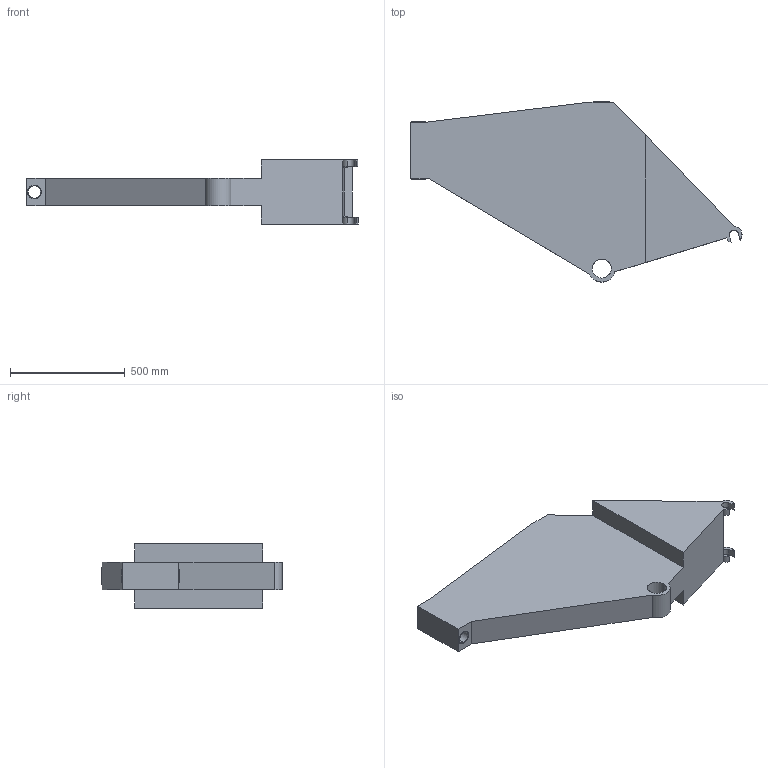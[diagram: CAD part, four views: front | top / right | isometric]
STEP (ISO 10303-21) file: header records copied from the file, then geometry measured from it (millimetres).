
FILE_DESCRIPTION (( 'STEP AP214' ), '1' );
FILE_NAME ('volume_travail_cadre.STEP', '2018-01-23T14:43:13', ( '' ), ( '' ), 'SwSTEP 2.0', 'SolidWorks 2017', '' );
FILE_SCHEMA (( 'AUTOMOTIVE_DESIGN' ));
Length unit declared in the file: millimetre
Products named in the file (1): volume_travail_cadre
Bounding box: 1447.57 x 785.72 x 280 mm (x, y, z)
Volume: 95772189.3 mm3; surface area: 2076430.2 mm2
Topology: 1 solids, 4 shells, 88 faces, 214 edges, 138 vertices
Faces by surface type: plane 39, cylinder 26, torus 14, bspline 9
Entity records: 2999 total; most frequent: CARTESIAN_POINT 960, ORIENTED_EDGE 428, DIRECTION 410, EDGE_CURVE 214, AXIS2_PLACEMENT_3D 158, VERTEX_POINT 138, EDGE_LOOP 96, LINE 94
